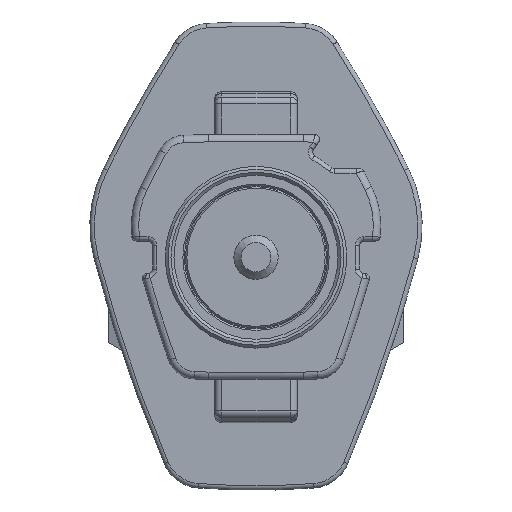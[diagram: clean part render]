
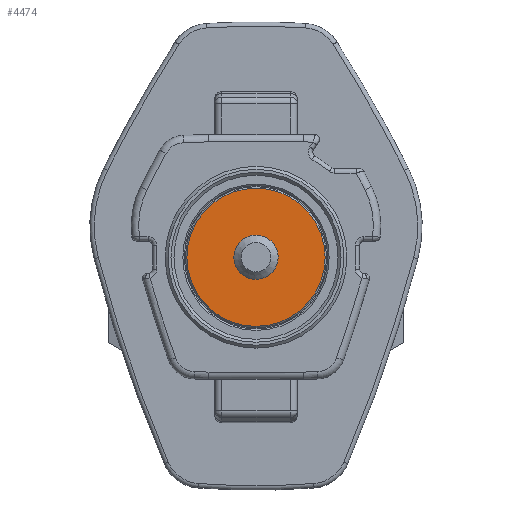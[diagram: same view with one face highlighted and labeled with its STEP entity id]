
A CAD part, left-side view. The second image highlights one B-rep face of the part: STEP entity #4474.
In plain terms, the highlighted planar face has unit normal (-1, 0, 0).
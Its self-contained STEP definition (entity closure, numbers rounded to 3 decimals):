
#4474=ADVANCED_FACE('',(#4971,#4972),#4861,.T.);
#4861=PLANE('',#14455);
#4971=FACE_BOUND('',#5744,.T.);
#4972=FACE_BOUND('',#5745,.T.);
#5744=EDGE_LOOP('',(#9575));
#5745=EDGE_LOOP('',(#9576));
#9575=ORIENTED_EDGE('',*,*,#12733,.F.);
#9576=ORIENTED_EDGE('',*,*,#12731,.T.);
#10815=VERTEX_POINT('',#23552);
#10817=VERTEX_POINT('',#23558);
#12731=EDGE_CURVE('',#10815,#10815,#13256,.T.);
#12733=EDGE_CURVE('',#10817,#10817,#13258,.T.);
#13256=CIRCLE('',#14449,4.675);
#13258=CIRCLE('',#14453,1.5);
#14449=AXIS2_PLACEMENT_3D('',#23551,#18082,#18083);
#14453=AXIS2_PLACEMENT_3D('',#23557,#18090,#18091);
#14455=AXIS2_PLACEMENT_3D('',#23560,#18094,#18095);
#18082=DIRECTION('',(-1.,0.,0.));
#18083=DIRECTION('',(0.,-0.941,0.339));
#18090=DIRECTION('',(-1.,0.,0.));
#18091=DIRECTION('',(0.,-0.046,0.999));
#18094=DIRECTION('',(-1.,0.,0.));
#18095=DIRECTION('',(0.,-0.046,0.999));
#23551=CARTESIAN_POINT('',(0.649,0.,0.));
#23552=CARTESIAN_POINT('',(0.649,-4.398,1.586));
#23557=CARTESIAN_POINT('',(0.649,0.,0.));
#23558=CARTESIAN_POINT('',(0.649,-0.068,1.498));
#23560=CARTESIAN_POINT('',(0.649,0.,0.));
